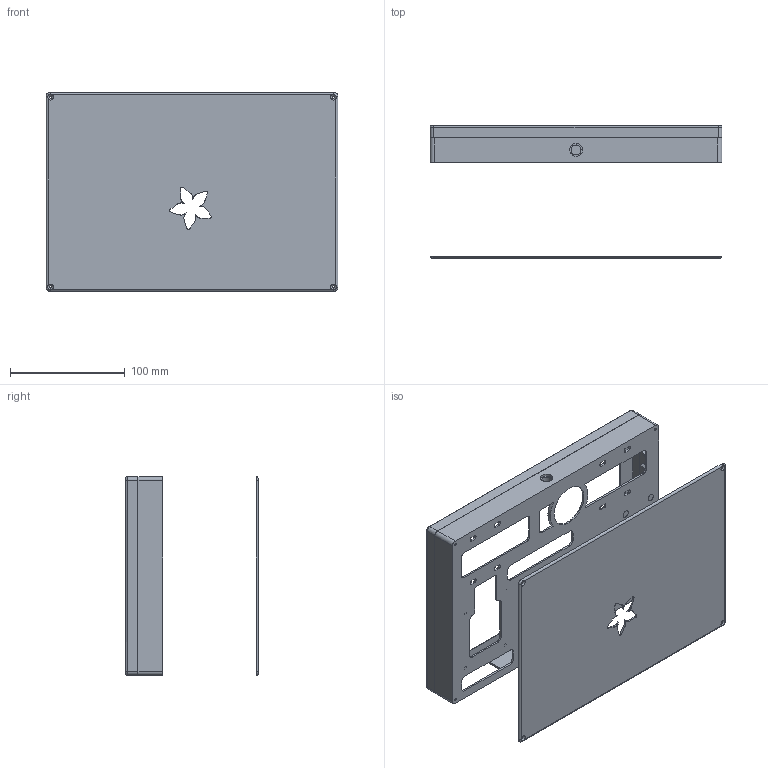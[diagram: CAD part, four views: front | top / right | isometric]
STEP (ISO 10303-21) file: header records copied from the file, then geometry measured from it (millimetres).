
FILE_DESCRIPTION(/* description */ (''),/* implementation_level */ '2;1');
FILE_NAME(/* name */ '/Users/pix/Dropbox/3D/Products/raspberry Laptop/export/RaspDesk.stp',/* time_stamp */ '2015-08-27T15:04:45-04:00',/* author */ (''),/* organization */ (''),/* preprocessor_version */ 'ST-DEVELOPER v16.1',/* originating_system */ 'Autodesk Translation Framework v4.1.0.1560',/* authorisation */ '');
FILE_SCHEMA (('AUTOMOTIVE_DESIGN { 1 0 10303 214 3 1 1 }'));
Length unit declared in the file: centimetre
Products named in the file (4): 10in PiTop Driver v13; slide switch v2; Display; 10in PiTop v57
Assembly tree (3 placements, depth 2):
  10in PiTop v57
    10in PiTop Driver v13
    slide switch v2
    Display
Bounding box: 254.45 x 115.41 x 173.22 mm (x, y, z)
Volume: 171638.2 mm3; surface area: 227994.5 mm2
Topology: 3 solids, 3 shells, 563 faces, 1451 edges, 954 vertices
Faces by surface type: plane 248, cylinder 174, bspline 109, cone 32
Full cylindrical faces by diameter (mm): 2 x16, 2.6 x4, 2.8 x2, 3 x14, 5 x4, 5.8 x4, 6 x2, 6.2 x12, 6.4 x6, 8.6 x1, 11 x1, 36.58 x1, 40.3 x1, 46.3 x1
Entity records: 20598 total; most frequent: CARTESIAN_POINT 7509, ORIENTED_EDGE 2682, DIRECTION 2420, EDGE_CURVE 1341, VERTEX_POINT 941, AXIS2_PLACEMENT_3D 844, EDGE_LOOP 802, LINE 732
